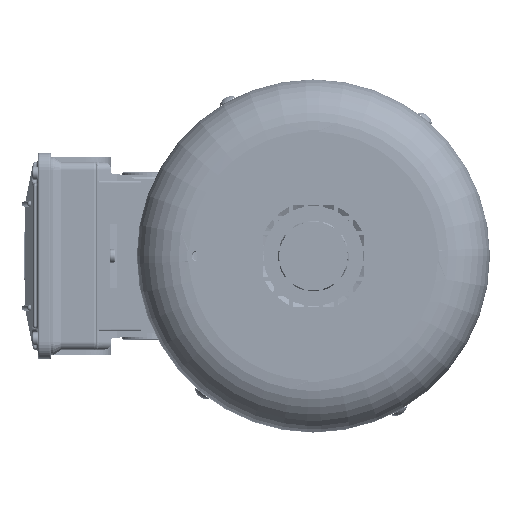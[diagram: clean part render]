
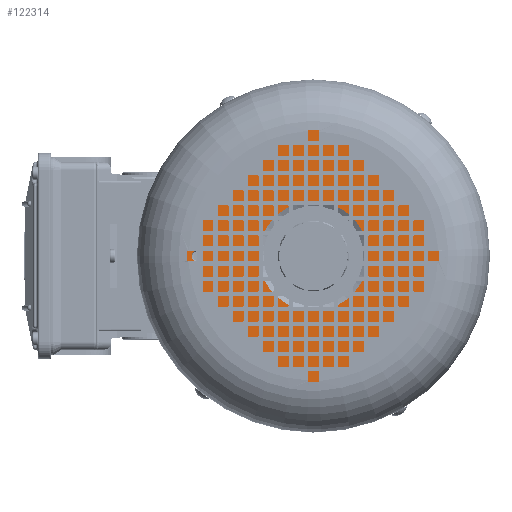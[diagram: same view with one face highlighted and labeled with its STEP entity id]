
A CAD part, left-side view. The second image highlights one B-rep face of the part: STEP entity #122314.
In plain terms, the highlighted planar face has unit normal (-1, 0, 0) as drawn and (0, 1, 0) by its records, which use the part's own axes.
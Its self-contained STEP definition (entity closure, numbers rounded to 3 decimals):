
#1254 = DIRECTION ( 'NONE',  ( 0., 1., 0. ) ) ;
#1262 = ORIENTED_EDGE ( 'NONE', *, *, #126117, .F. ) ;
#1479 = ORIENTED_EDGE ( 'NONE', *, *, #52733, .F. ) ;
#1957 = EDGE_LOOP ( 'NONE', ( #116340, #1262 ) ) ;
#2079 = CARTESIAN_POINT ( 'NONE',  ( 0., 49.5, 40. ) ) ;
#3339 = CARTESIAN_POINT ( 'NONE',  ( 0., 49.5, -101. ) ) ;
#4571 = VERTEX_POINT ( 'NONE', #72657 ) ;
#5320 = AXIS2_PLACEMENT_3D ( 'NONE', #117677, #57641, #127794 ) ;
#6900 = DIRECTION ( 'NONE',  ( 0., 1., 0. ) ) ;
#7104 = EDGE_CURVE ( 'NONE', #57746, #44700, #121780, .T. ) ;
#7900 = AXIS2_PLACEMENT_3D ( 'NONE', #117103, #57060, #127229 ) ;
#9489 = CARTESIAN_POINT ( 'NONE',  ( 39.905, 49.5, -75.051 ) ) ;
#17208 = EDGE_CURVE ( 'NONE', #34126, #39930, #40526, .T. ) ;
#17682 = FACE_BOUND ( 'NONE', #53581, .T. ) ;
#19206 = AXIS2_PLACEMENT_3D ( 'NONE', #61435, #1254, #71460 ) ;
#19574 = DIRECTION ( 'NONE',  ( 0., 0., 1. ) ) ;
#19968 = DIRECTION ( 'NONE',  ( 0., 1., 0. ) ) ;
#21992 = VERTEX_POINT ( 'NONE', #107744 ) ;
#23212 = ORIENTED_EDGE ( 'NONE', *, *, #70797, .T. ) ;
#23996 = FACE_OUTER_BOUND ( 'NONE', #76895, .T. ) ;
#26267 = CARTESIAN_POINT ( 'NONE',  ( -84.948, 49.5, 6.991 ) ) ;
#27448 = DIRECTION ( 'NONE',  ( 0., 1., 0. ) ) ;
#27467 = AXIS2_PLACEMENT_3D ( 'NONE', #80116, #19968, #90159 ) ;
#27629 = ORIENTED_EDGE ( 'NONE', *, *, #7104, .F. ) ;
#29110 = EDGE_CURVE ( 'NONE', #39930, #34126, #74069, .T. ) ;
#31990 = CARTESIAN_POINT ( 'NONE',  ( 45.043, 49.5, 72.084 ) ) ;
#33243 = ORIENTED_EDGE ( 'NONE', *, *, #34095, .F. ) ;
#33982 = EDGE_LOOP ( 'NONE', ( #125041, #73962 ) ) ;
#34095 = EDGE_CURVE ( 'NONE', #78023, #107800, #72173, .T. ) ;
#34126 = VERTEX_POINT ( 'NONE', #2079 ) ;
#36406 = DIRECTION ( 'NONE',  ( 0., 1., 0. ) ) ;
#38946 = AXIS2_PLACEMENT_3D ( 'NONE', #31990, #102152, #42054 ) ;
#39090 = CIRCLE ( 'NONE', #7900, 4.025 ) ;
#39930 = VERTEX_POINT ( 'NONE', #122284 ) ;
#40526 = CIRCLE ( 'NONE', #83755, 40. ) ;
#42054 = DIRECTION ( 'NONE',  ( 0., 0., 1. ) ) ;
#44398 = FACE_BOUND ( 'NONE', #1957, .T. ) ;
#44700 = VERTEX_POINT ( 'NONE', #26267 ) ;
#45669 = CARTESIAN_POINT ( 'NONE',  ( 45.043, 49.5, 68.059 ) ) ;
#48029 = CARTESIAN_POINT ( 'NONE',  ( 0., 49.5, 0. ) ) ;
#51597 = CARTESIAN_POINT ( 'NONE',  ( 0., 49.5, 0. ) ) ;
#52733 = EDGE_CURVE ( 'NONE', #107800, #78023, #62037, .T. ) ;
#53208 = CARTESIAN_POINT ( 'NONE',  ( -84.948, 49.5, -1.059 ) ) ;
#53581 = EDGE_LOOP ( 'NONE', ( #105849, #27629 ) ) ;
#56901 = AXIS2_PLACEMENT_3D ( 'NONE', #66986, #6900, #77091 ) ;
#57060 = DIRECTION ( 'NONE',  ( 0., 1., 0. ) ) ;
#57641 = DIRECTION ( 'NONE',  ( 0., 1., 0. ) ) ;
#57746 = VERTEX_POINT ( 'NONE', #53208 ) ;
#58006 = AXIS2_PLACEMENT_3D ( 'NONE', #51597, #121698, #61694 ) ;
#58156 = DIRECTION ( 'NONE',  ( 0., 0., 1. ) ) ;
#61435 = CARTESIAN_POINT ( 'NONE',  ( -101., 49.5, 0. ) ) ;
#61694 = DIRECTION ( 'NONE',  ( 0., 0., 1. ) ) ;
#62037 = CIRCLE ( 'NONE', #5320, 4.025 ) ;
#64732 = CIRCLE ( 'NONE', #56901, 4.025 ) ;
#66986 = CARTESIAN_POINT ( 'NONE',  ( -84.948, 49.5, 2.966 ) ) ;
#70797 = EDGE_CURVE ( 'NONE', #118305, #101309, #106199, .T. ) ;
#71460 = DIRECTION ( 'NONE',  ( 0., 0., 1. ) ) ;
#72173 = CIRCLE ( 'NONE', #38946, 4.025 ) ;
#72657 = CARTESIAN_POINT ( 'NONE',  ( 39.905, 49.5, -71.026 ) ) ;
#73962 = ORIENTED_EDGE ( 'NONE', *, *, #29110, .F. ) ;
#74069 = CIRCLE ( 'NONE', #58006, 40. ) ;
#76088 = AXIS2_PLACEMENT_3D ( 'NONE', #87536, #27448, #97637 ) ;
#76895 = EDGE_LOOP ( 'NONE', ( #111157, #23212 ) ) ;
#77091 = DIRECTION ( 'NONE',  ( 0., 0., 1. ) ) ;
#78023 = VERTEX_POINT ( 'NONE', #45669 ) ;
#79718 = DIRECTION ( 'NONE',  ( 0., 1., 0. ) ) ;
#80116 = CARTESIAN_POINT ( 'NONE',  ( 0., 49.5, 0. ) ) ;
#82407 = EDGE_LOOP ( 'NONE', ( #1479, #33243 ) ) ;
#83755 = AXIS2_PLACEMENT_3D ( 'NONE', #48029, #118197, #58156 ) ;
#87536 = CARTESIAN_POINT ( 'NONE',  ( -84.948, 49.5, 2.966 ) ) ;
#90159 = DIRECTION ( 'NONE',  ( 0., 0., 1. ) ) ;
#91848 = AXIS2_PLACEMENT_3D ( 'NONE', #9489, #79718, #19574 ) ;
#96452 = CARTESIAN_POINT ( 'NONE',  ( 0., 49.5, 0. ) ) ;
#97490 = EDGE_CURVE ( 'NONE', #4571, #21992, #39090, .T. ) ;
#97637 = DIRECTION ( 'NONE',  ( 0., 0., 1. ) ) ;
#97765 = FACE_BOUND ( 'NONE', #82407, .T. ) ;
#100366 = EDGE_CURVE ( 'NONE', #44700, #57746, #64732, .T. ) ;
#100562 = EDGE_CURVE ( 'NONE', #101309, #118305, #119535, .T. ) ;
#100894 = FACE_BOUND ( 'NONE', #33982, .T. ) ;
#101309 = VERTEX_POINT ( 'NONE', #112768 ) ;
#102152 = DIRECTION ( 'NONE',  ( 0., 1., 0. ) ) ;
#103757 = CIRCLE ( 'NONE', #91848, 4.025 ) ;
#105849 = ORIENTED_EDGE ( 'NONE', *, *, #100366, .F. ) ;
#106199 = CIRCLE ( 'NONE', #126129, 101. ) ;
#106550 = DIRECTION ( 'NONE',  ( 0., 0., 1. ) ) ;
#107744 = CARTESIAN_POINT ( 'NONE',  ( 39.905, 49.5, -79.076 ) ) ;
#107800 = VERTEX_POINT ( 'NONE', #112163 ) ;
#111157 = ORIENTED_EDGE ( 'NONE', *, *, #100562, .T. ) ;
#112163 = CARTESIAN_POINT ( 'NONE',  ( 45.043, 49.5, 76.109 ) ) ;
#112768 = CARTESIAN_POINT ( 'NONE',  ( 0., 49.5, 101. ) ) ;
#116340 = ORIENTED_EDGE ( 'NONE', *, *, #97490, .F. ) ;
#117103 = CARTESIAN_POINT ( 'NONE',  ( 39.905, 49.5, -75.051 ) ) ;
#117677 = CARTESIAN_POINT ( 'NONE',  ( 45.043, 49.5, 72.084 ) ) ;
#118197 = DIRECTION ( 'NONE',  ( 0., 1., 0. ) ) ;
#118305 = VERTEX_POINT ( 'NONE', #3339 ) ;
#119535 = CIRCLE ( 'NONE', #27467, 101. ) ;
#121016 = PLANE ( 'NONE',  #19206 ) ;
#121698 = DIRECTION ( 'NONE',  ( 0., 1., 0. ) ) ;
#121780 = CIRCLE ( 'NONE', #76088, 4.025 ) ;
#122284 = CARTESIAN_POINT ( 'NONE',  ( 0., 49.5, -40. ) ) ;
#122314 = ADVANCED_FACE ( 'NONE', ( #44398, #97765, #17682, #23996, #100894 ), #121016, .T. ) ;
#125041 = ORIENTED_EDGE ( 'NONE', *, *, #17208, .F. ) ;
#126117 = EDGE_CURVE ( 'NONE', #21992, #4571, #103757, .T. ) ;
#126129 = AXIS2_PLACEMENT_3D ( 'NONE', #96452, #36406, #106550 ) ;
#127229 = DIRECTION ( 'NONE',  ( 0., 0., 1. ) ) ;
#127794 = DIRECTION ( 'NONE',  ( 0., 0., 1. ) ) ;
